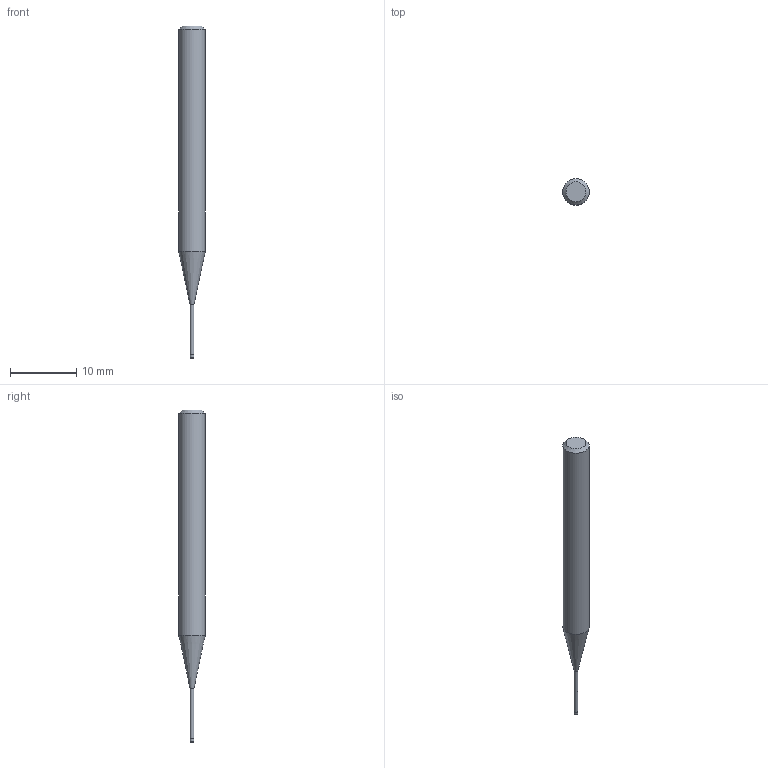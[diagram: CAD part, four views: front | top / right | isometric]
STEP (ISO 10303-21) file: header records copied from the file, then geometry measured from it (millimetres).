
FILE_DESCRIPTION((''),'2;1');
FILE_NAME('C:\Users\nsx150\AppData\Local\Temp\Mastercam 2021\3SYKECWX22\TEMP.step','2021-04-22T09:37:45',(''),(''),'STEP Write','Mastercam 2021 ... CNC Software, Inc.','');
FILE_SCHEMA(('AUTOMOTIVE_DESIGN'));
Length unit declared in the file: millimetre
Products named in the file (1): None
Bounding box: 4 x 4 x 50 mm (x, y, z)
Volume: 466 mm3; surface area: 508.8 mm2
Topology: 2 solids, 2 shells, 10 faces, 14 edges, 8 vertices
Faces by surface type: plane 4, cylinder 3, cone 2, torus 1
Full cylindrical faces by diameter (mm): 0.56 x1, 0.6 x1, 4 x1
Entity records: 232 total; most frequent: DIRECTION 40, CARTESIAN_POINT 28, AXIS2_PLACEMENT_3D 20, ORIENTED_EDGE 16, EDGE_LOOP 16, STYLED_ITEM 13, ADVANCED_FACE 10, FACE_BOUND 10
